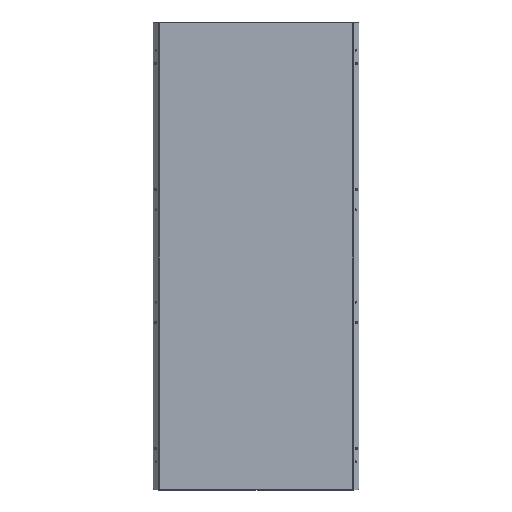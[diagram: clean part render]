
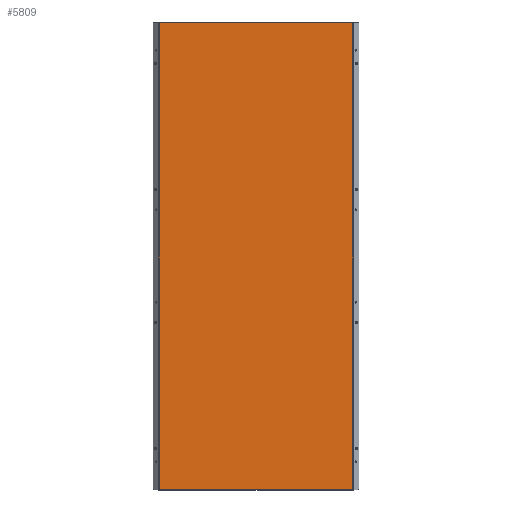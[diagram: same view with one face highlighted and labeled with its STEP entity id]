
A CAD part, top view. The second image highlights one B-rep face of the part: STEP entity #5809.
In plain terms, the highlighted planar face has unit normal (0, 0, 1).
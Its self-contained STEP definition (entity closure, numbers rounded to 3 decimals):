
#108 = CARTESIAN_POINT ( 'NONE',  ( 361.5, 870.5, 0. ) ) ;
#829 = LINE ( 'NONE', #3358, #4646 ) ;
#1083 = DIRECTION ( 'NONE',  ( 0., 0., -1. ) ) ;
#1283 = LINE ( 'NONE', #3728, #4680 ) ;
#1767 = PLANE ( 'NONE',  #7360 ) ;
#1819 = EDGE_CURVE ( 'NONE', #7644, #7076, #2938, .T. ) ;
#2148 = CARTESIAN_POINT ( 'NONE',  ( 361.5, -870.5, 0. ) ) ;
#2241 = CARTESIAN_POINT ( 'NONE',  ( -361.5, 870.5, 0. ) ) ;
#2471 = EDGE_CURVE ( 'NONE', #6512, #6300, #829, .T. ) ;
#2938 = LINE ( 'NONE', #7201, #3245 ) ;
#3008 = LINE ( 'NONE', #2241, #6063 ) ;
#3023 = CARTESIAN_POINT ( 'NONE',  ( -361.5, -870.5, 0. ) ) ;
#3068 = ORIENTED_EDGE ( 'NONE', *, *, #5736, .T. ) ;
#3245 = VECTOR ( 'NONE', #7132, 1000. ) ;
#3358 = CARTESIAN_POINT ( 'NONE',  ( 361.5, -870.5, 0. ) ) ;
#3487 = ORIENTED_EDGE ( 'NONE', *, *, #6011, .T. ) ;
#3523 = DIRECTION ( 'NONE',  ( -1., 0., 0. ) ) ;
#3728 = CARTESIAN_POINT ( 'NONE',  ( -361.5, -870.5, 0. ) ) ;
#4120 = FACE_OUTER_BOUND ( 'NONE', #6106, .T. ) ;
#4623 = CARTESIAN_POINT ( 'NONE',  ( -361.5, 870.5, 0. ) ) ;
#4646 = VECTOR ( 'NONE', #5779, 1000. ) ;
#4680 = VECTOR ( 'NONE', #6191, 1000. ) ;
#5421 = ORIENTED_EDGE ( 'NONE', *, *, #1819, .T. ) ;
#5426 = DIRECTION ( 'NONE',  ( -1., 0., 0. ) ) ;
#5736 = EDGE_CURVE ( 'NONE', #6300, #7644, #3008, .T. ) ;
#5779 = DIRECTION ( 'NONE',  ( 0., 1., 0. ) ) ;
#5809 = ADVANCED_FACE ( 'NONE', ( #4120 ), #1767, .F. ) ;
#6011 = EDGE_CURVE ( 'NONE', #7076, #6512, #1283, .T. ) ;
#6063 = VECTOR ( 'NONE', #5426, 1000. ) ;
#6106 = EDGE_LOOP ( 'NONE', ( #6892, #3068, #5421, #3487 ) ) ;
#6191 = DIRECTION ( 'NONE',  ( 1., 0., 0. ) ) ;
#6300 = VERTEX_POINT ( 'NONE', #108 ) ;
#6512 = VERTEX_POINT ( 'NONE', #2148 ) ;
#6554 = CARTESIAN_POINT ( 'NONE',  ( 0., 0., 0. ) ) ;
#6892 = ORIENTED_EDGE ( 'NONE', *, *, #2471, .T. ) ;
#7076 = VERTEX_POINT ( 'NONE', #3023 ) ;
#7132 = DIRECTION ( 'NONE',  ( 0., -1., 0. ) ) ;
#7201 = CARTESIAN_POINT ( 'NONE',  ( -361.5, -870.5, 0. ) ) ;
#7360 = AXIS2_PLACEMENT_3D ( 'NONE', #6554, #1083, #3523 ) ;
#7644 = VERTEX_POINT ( 'NONE', #4623 ) ;
